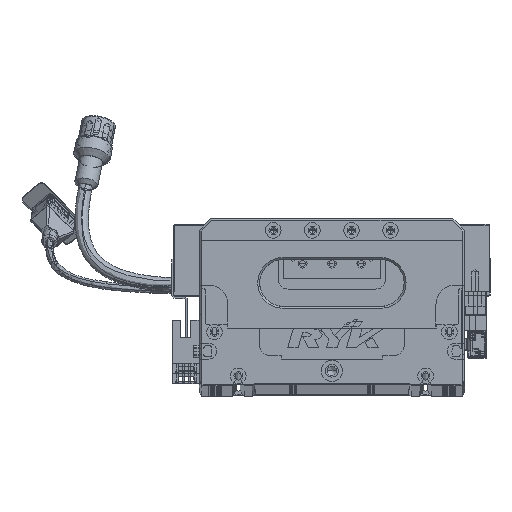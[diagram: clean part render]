
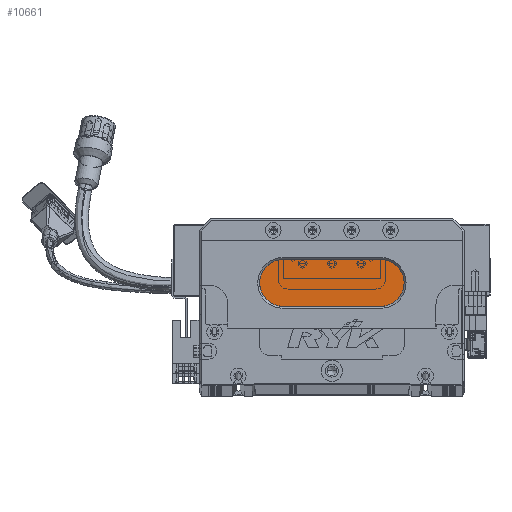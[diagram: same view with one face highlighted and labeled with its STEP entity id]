
A CAD part, top view. The second image highlights one B-rep face of the part: STEP entity #10661.
In plain terms, the highlighted planar face has unit normal (0, 0, 1) as drawn and (0, 0, -1) by its records, which use the part's own axes.
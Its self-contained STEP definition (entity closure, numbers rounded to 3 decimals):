
#1256 = EDGE_CURVE ( 'NONE', #14652, #13691, #119666, .T. ) ;
#1292 = CARTESIAN_POINT ( 'NONE',  ( 43., 40., 13. ) ) ;
#1404 = DIRECTION ( 'NONE',  ( -1., 0., 0. ) ) ;
#2941 = AXIS2_PLACEMENT_3D ( 'NONE', #133026, #122014, #56121 ) ;
#9057 = DIRECTION ( 'NONE',  ( -1., 0., 0. ) ) ;
#9903 = EDGE_LOOP ( 'NONE', ( #109229, #38788, #19780, #97215, #108023 ) ) ;
#10661 = ADVANCED_FACE ( 'NONE', ( #97488 ), #58628, .T. ) ;
#13691 = VERTEX_POINT ( 'NONE', #19193 ) ;
#14652 = VERTEX_POINT ( 'NONE', #32291 ) ;
#14924 = LINE ( 'NONE', #69122, #75081 ) ;
#15384 = CARTESIAN_POINT ( 'NONE',  ( 93., 40., 13. ) ) ;
#19193 = CARTESIAN_POINT ( 'NONE',  ( 43., 64., 13. ) ) ;
#19780 = ORIENTED_EDGE ( 'NONE', *, *, #86002, .T. ) ;
#32291 = CARTESIAN_POINT ( 'NONE',  ( 31., 52., 13. ) ) ;
#32885 = VECTOR ( 'NONE', #66198, 1000. ) ;
#34836 = CARTESIAN_POINT ( 'NONE',  ( 93., 64., 13. ) ) ;
#35540 = EDGE_CURVE ( 'NONE', #13691, #140318, #55184, .T. ) ;
#36054 = AXIS2_PLACEMENT_3D ( 'NONE', #124509, #57202, #69192 ) ;
#38788 = ORIENTED_EDGE ( 'NONE', *, *, #41663, .T. ) ;
#41663 = EDGE_CURVE ( 'NONE', #87820, #134707, #14924, .T. ) ;
#42210 = DIRECTION ( 'NONE',  ( 0., 0., -1. ) ) ;
#42669 = CARTESIAN_POINT ( 'NONE',  ( 93., 52., 13. ) ) ;
#44855 = AXIS2_PLACEMENT_3D ( 'NONE', #42669, #42210, #140225 ) ;
#45207 = CARTESIAN_POINT ( 'NONE',  ( 43., 52., 13. ) ) ;
#55184 = LINE ( 'NONE', #110861, #32885 ) ;
#56121 = DIRECTION ( 'NONE',  ( -1., 0., 0. ) ) ;
#57202 = DIRECTION ( 'NONE',  ( 0., 0., -1. ) ) ;
#58628 = PLANE ( 'NONE',  #36054 ) ;
#64654 = AXIS2_PLACEMENT_3D ( 'NONE', #45207, #100391, #1404 ) ;
#66198 = DIRECTION ( 'NONE',  ( 1., 0., 0. ) ) ;
#69122 = CARTESIAN_POINT ( 'NONE',  ( 93., 40., 13. ) ) ;
#69192 = DIRECTION ( 'NONE',  ( -1., 0., 0. ) ) ;
#69457 = EDGE_CURVE ( 'NONE', #140318, #87820, #104975, .T. ) ;
#75081 = VECTOR ( 'NONE', #9057, 1000. ) ;
#81448 = CIRCLE ( 'NONE', #64654, 12. ) ;
#86002 = EDGE_CURVE ( 'NONE', #134707, #14652, #81448, .T. ) ;
#87820 = VERTEX_POINT ( 'NONE', #15384 ) ;
#97215 = ORIENTED_EDGE ( 'NONE', *, *, #1256, .T. ) ;
#97488 = FACE_OUTER_BOUND ( 'NONE', #9903, .T. ) ;
#100391 = DIRECTION ( 'NONE',  ( 0., 0., -1. ) ) ;
#104975 = CIRCLE ( 'NONE', #44855, 12. ) ;
#108023 = ORIENTED_EDGE ( 'NONE', *, *, #35540, .T. ) ;
#109229 = ORIENTED_EDGE ( 'NONE', *, *, #69457, .T. ) ;
#110861 = CARTESIAN_POINT ( 'NONE',  ( 93., 64., 13. ) ) ;
#119666 = CIRCLE ( 'NONE', #2941, 12. ) ;
#122014 = DIRECTION ( 'NONE',  ( 0., 0., -1. ) ) ;
#124509 = CARTESIAN_POINT ( 'NONE',  ( 93., 52., 13. ) ) ;
#133026 = CARTESIAN_POINT ( 'NONE',  ( 43., 52., 13. ) ) ;
#134707 = VERTEX_POINT ( 'NONE', #1292 ) ;
#140225 = DIRECTION ( 'NONE',  ( -1., 0., 0. ) ) ;
#140318 = VERTEX_POINT ( 'NONE', #34836 ) ;
